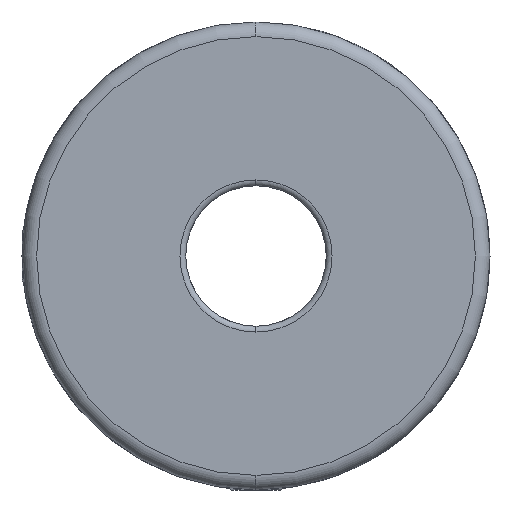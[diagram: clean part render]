
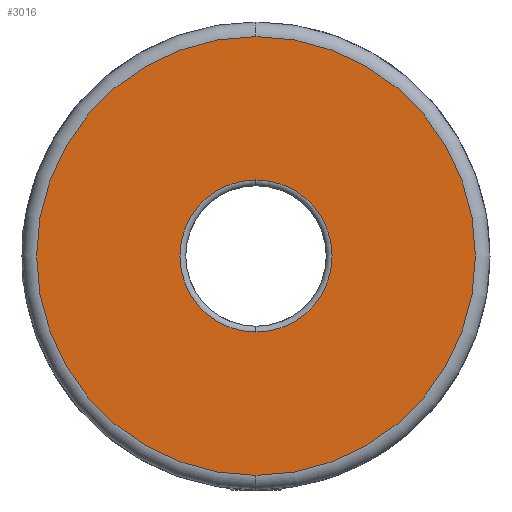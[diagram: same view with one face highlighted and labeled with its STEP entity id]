
A CAD part, left-side view. The second image highlights one B-rep face of the part: STEP entity #3016.
In plain terms, the highlighted planar face has unit normal (-1, 0, 0).
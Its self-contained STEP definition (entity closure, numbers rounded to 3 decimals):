
#167 = EDGE_LOOP ( 'NONE', ( #971, #982 ) ) ;
#273 = CARTESIAN_POINT ( 'NONE',  ( -20.774, -10.179, 32.819 ) ) ;
#428 = CARTESIAN_POINT ( 'NONE',  ( -20.774, -10.179, -4.681 ) ) ;
#583 = VERTEX_POINT ( 'NONE', #4057 ) ;
#853 = EDGE_CURVE ( 'NONE', #3797, #3860, #3142, .T. ) ;
#971 = ORIENTED_EDGE ( 'NONE', *, *, #2750, .T. ) ;
#982 = ORIENTED_EDGE ( 'NONE', *, *, #983, .T. ) ;
#983 = EDGE_CURVE ( 'NONE', #1341, #583, #2974, .T. ) ;
#1020 = ORIENTED_EDGE ( 'NONE', *, *, #853, .T. ) ;
#1064 = ORIENTED_EDGE ( 'NONE', *, *, #3400, .T. ) ;
#1187 = AXIS2_PLACEMENT_3D ( 'NONE', #1626, #1623, #1620 ) ;
#1208 = CIRCLE ( 'NONE', #1187, 18.75 ) ;
#1341 = VERTEX_POINT ( 'NONE', #1815 ) ;
#1359 = AXIS2_PLACEMENT_3D ( 'NONE', #2766, #2717, #2713 ) ;
#1526 = AXIS2_PLACEMENT_3D ( 'NONE', #3134, #3128, #3123 ) ;
#1620 = DIRECTION ( 'NONE',  ( 0., 0., -1. ) ) ;
#1623 = DIRECTION ( 'NONE',  ( -1., 0., 0. ) ) ;
#1626 = CARTESIAN_POINT ( 'NONE',  ( -20.774, -10.179, 14.069 ) ) ;
#1652 = FACE_OUTER_BOUND ( 'NONE', #3597, .T. ) ;
#1669 = FACE_BOUND ( 'NONE', #167, .T. ) ;
#1815 = CARTESIAN_POINT ( 'NONE',  ( -20.774, -10.179, 20.569 ) ) ;
#1884 = CIRCLE ( 'NONE', #1526, 6.5 ) ;
#2254 = AXIS2_PLACEMENT_3D ( 'NONE', #2978, #2973, #2968 ) ;
#2373 = AXIS2_PLACEMENT_3D ( 'NONE', #3925, #3910, #3906 ) ;
#2713 = DIRECTION ( 'NONE',  ( 0., 0., -1. ) ) ;
#2717 = DIRECTION ( 'NONE',  ( 1., 0., 0. ) ) ;
#2729 = PLANE ( 'NONE',  #1359 ) ;
#2750 = EDGE_CURVE ( 'NONE', #583, #1341, #1884, .T. ) ;
#2766 = CARTESIAN_POINT ( 'NONE',  ( -20.774, -10.179, 14.069 ) ) ;
#2968 = DIRECTION ( 'NONE',  ( 0., 0., -1. ) ) ;
#2973 = DIRECTION ( 'NONE',  ( 1., 0., 0. ) ) ;
#2974 = CIRCLE ( 'NONE', #2254, 6.5 ) ;
#2978 = CARTESIAN_POINT ( 'NONE',  ( -20.774, -10.179, 14.069 ) ) ;
#3016 = ADVANCED_FACE ( 'NONE', ( #1669, #1652 ), #2729, .F. ) ;
#3123 = DIRECTION ( 'NONE',  ( 0., 0., -1. ) ) ;
#3128 = DIRECTION ( 'NONE',  ( 1., 0., 0. ) ) ;
#3134 = CARTESIAN_POINT ( 'NONE',  ( -20.774, -10.179, 14.069 ) ) ;
#3142 = CIRCLE ( 'NONE', #2373, 18.75 ) ;
#3400 = EDGE_CURVE ( 'NONE', #3860, #3797, #1208, .T. ) ;
#3597 = EDGE_LOOP ( 'NONE', ( #1020, #1064 ) ) ;
#3797 = VERTEX_POINT ( 'NONE', #428 ) ;
#3860 = VERTEX_POINT ( 'NONE', #273 ) ;
#3906 = DIRECTION ( 'NONE',  ( 0., 0., -1. ) ) ;
#3910 = DIRECTION ( 'NONE',  ( -1., 0., 0. ) ) ;
#3925 = CARTESIAN_POINT ( 'NONE',  ( -20.774, -10.179, 14.069 ) ) ;
#4057 = CARTESIAN_POINT ( 'NONE',  ( -20.774, -10.179, 7.569 ) ) ;
